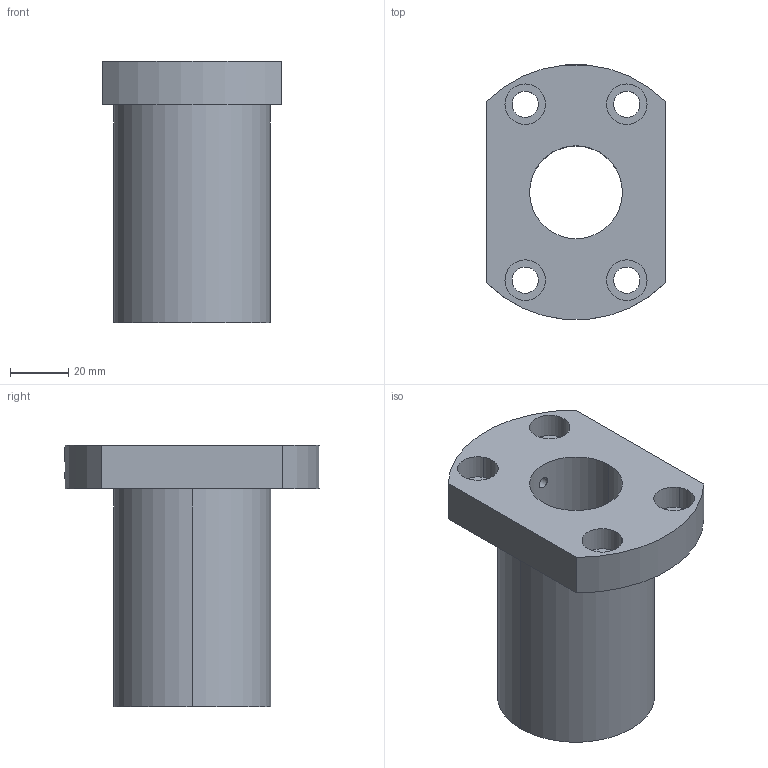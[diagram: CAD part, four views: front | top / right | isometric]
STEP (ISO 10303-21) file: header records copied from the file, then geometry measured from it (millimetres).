
FILE_DESCRIPTION(('STEP AP214'),'1');
FILE_NAME('cgr3210sfid6_3590-.stp','2025-04-30T09:12:42',('TraceParts'),('TraceParts S.A.'),'Spatial InterOp 3D',' ',' ');
FILE_SCHEMA(('AUTOMOTIVE_DESIGN { 1 0 10303 214 1 1 1 1 }'));
Length unit declared in the file: millimetre
Products named in the file (1): cgr3210sfid6_3590-
Bounding box: 62 x 87.83 x 90 mm (x, y, z)
Volume: 166342.3 mm3; surface area: 36168.6 mm2
Topology: 1 solids, 1 shells, 46 faces, 104 edges, 66 vertices
Faces by surface type: cylinder 30, plane 10, cone 6
Entity records: 1838 total; most frequent: CARTESIAN_POINT 349, DIRECTION 252, ORIENTED_EDGE 208, AXIS2_PLACEMENT_3D 105, EDGE_CURVE 104, VERTEX_POINT 66, EDGE_LOOP 64, CIRCLE 58
